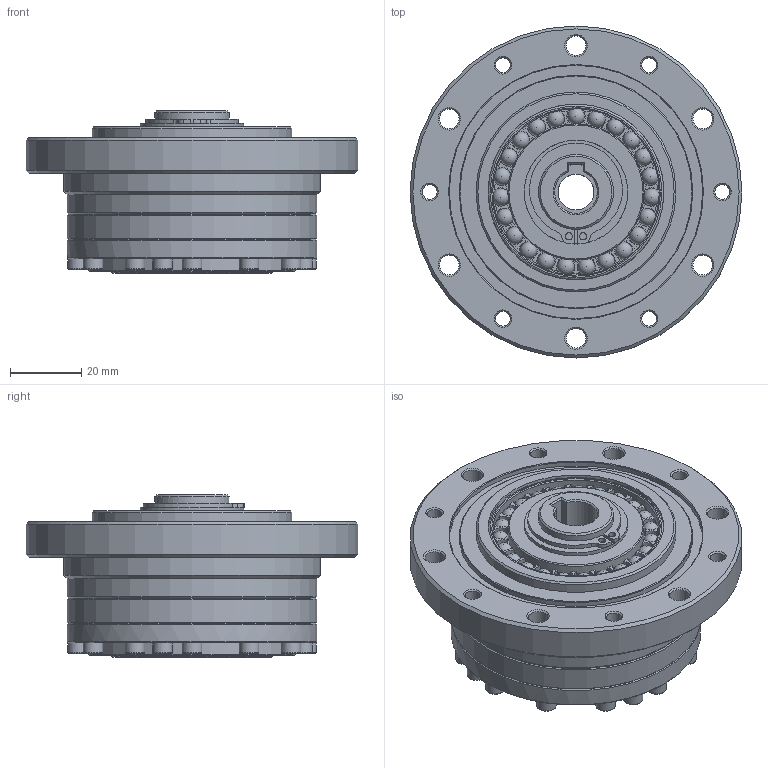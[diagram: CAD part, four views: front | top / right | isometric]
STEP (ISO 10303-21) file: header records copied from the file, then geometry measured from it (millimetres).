
FILE_DESCRIPTION(/* description */ (''),/* implementation_level */ '2;1');
FILE_NAME(/* name */ 'S:\TB00F\研發課二組\機密級\1.\X2\8A2D8A08\X0\\01-DT\DT圖面-y\2.組合圖\\X2\6A21578B\X0\\WUT-S-XX-PO\WUT-S-20-PO模型\AK0002H1-修改.stp',/* time_stamp */ '2018-12-07T09:13:19+08:00',/* author */ ('yin210'),/* organization */ (''),/* preprocessor_version */ 'ST-DEVELOPER v15.2',/* originating_system */ 'Autodesk Inventor 2014',/* authorisation */ '');
FILE_SCHEMA (('AUTOMOTIVE_DESIGN { 1 0 10303 214 3 1 1 }'));
Length unit declared in the file: centimetre
Products named in the file (1): AK0002H1-修改
Bounding box: 93 x 93 x 45.5 mm (x, y, z)
Volume: 166710.9 mm3; surface area: 33598 mm2
Topology: 1 solids, 1 shells, 577 faces, 1398 edges, 861 vertices
Faces by surface type: plane 230, cylinder 171, cone 88, torus 65, sphere 23
Full cylindrical faces by diameter (mm): 2 x2, 2.5 x4, 4.134 x14, 4.917 x8, 5.5 x22, 10 x1, 14 x1, 15.5 x1, 21 x1, 29 x1, 36 x1, 38.15 x1, 40.2 x1, 43 x1, 45 x1, 46.64 x1, 49.07 x1, 56 x1, 58 x1, 65.4 x1, 70 x3, 71 x1, 72 x1, 93 x1
Entity records: 15317 total; most frequent: DIRECTION 2808, CARTESIAN_POINT 2616, ORIENTED_EDGE 2264, AXIS2_PLACEMENT_3D 1244, EDGE_CURVE 1086, EDGE_LOOP 840, VERTEX_POINT 748, CIRCLE 666
